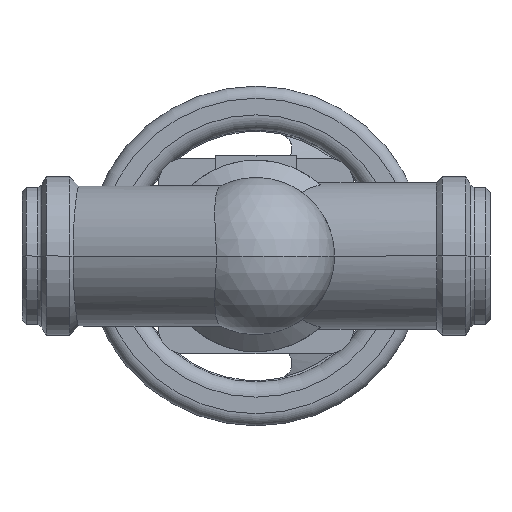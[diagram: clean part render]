
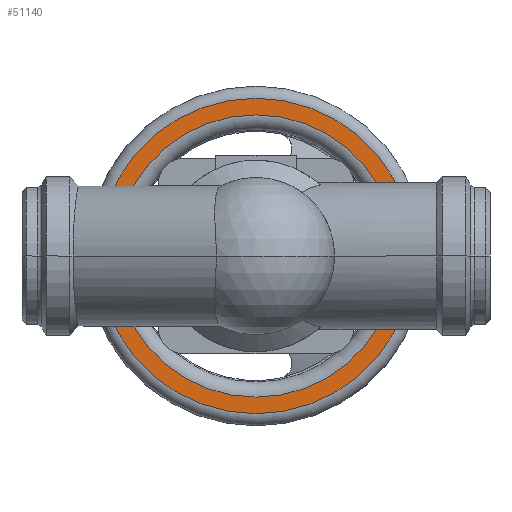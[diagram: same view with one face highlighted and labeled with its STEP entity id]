
A CAD part, front view. The second image highlights one B-rep face of the part: STEP entity #51140.
In plain terms, the highlighted planar face has unit normal (0, -1, 0).
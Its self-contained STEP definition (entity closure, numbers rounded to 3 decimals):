
#50490=CARTESIAN_POINT('',(259.5,328.1,0.));
#50500=VERTEX_POINT('',#50490);
#50530=CARTESIAN_POINT('',(155.,328.1,0.));
#50540=DIRECTION('',(0.,1.,0.));
#50550=DIRECTION('',(-1.,0.,0.));
#50560=AXIS2_PLACEMENT_3D('',#50530,#50540,#50550);
#50570=CIRCLE('',#50560,104.5);
#50580=CARTESIAN_POINT('',(50.5,328.1,0.));
#50590=VERTEX_POINT('',#50580);
#50600=EDGE_CURVE('',#50590,#50500,#50570,.T.);
#50810=CARTESIAN_POINT('',(56.,328.1,0.));
#50820=DIRECTION('',(0.,-1.,0.));
#50830=DIRECTION('',(1.,0.,0.));
#50840=AXIS2_PLACEMENT_3D('',#50810,#50820,#50830);
#50850=PLANE('',#50840);
#50860=CARTESIAN_POINT('',(155.,328.1,-104.5));
#50870=VERTEX_POINT('',#50860);
#50880=EDGE_CURVE('',#50870,#50590,#50570,.T.);
#50890=ORIENTED_EDGE('',*,*,#50880,.F.);
#50900=ORIENTED_EDGE('',*,*,#50600,.F.);
#50910=EDGE_CURVE('',#50500,#50870,#50570,.T.);
#50920=ORIENTED_EDGE('',*,*,#50910,.F.);
#50930=EDGE_LOOP('',(#50920,#50900,#50890));
#50940=FACE_OUTER_BOUND('',#50930,.T.);
#50950=CARTESIAN_POINT('',(155.,328.1,0.));
#50960=DIRECTION('',(0.,1.,0.));
#50970=DIRECTION('',(-1.,0.,0.));
#50980=AXIS2_PLACEMENT_3D('',#50950,#50960,#50970);
#50990=CIRCLE('',#50980,93.5);
#51000=CARTESIAN_POINT('',(248.5,328.1,0.));
#51010=VERTEX_POINT('',#51000);
#51020=CARTESIAN_POINT('',(61.5,328.1,0.));
#51030=VERTEX_POINT('',#51020);
#51040=EDGE_CURVE('',#51010,#51030,#50990,.T.);
#51050=ORIENTED_EDGE('',*,*,#51040,.T.);
#51060=CARTESIAN_POINT('',(155.,328.1,93.5));
#51070=VERTEX_POINT('',#51060);
#51080=EDGE_CURVE('',#51070,#51010,#50990,.T.);
#51090=ORIENTED_EDGE('',*,*,#51080,.T.);
#51100=EDGE_CURVE('',#51030,#51070,#50990,.T.);
#51110=ORIENTED_EDGE('',*,*,#51100,.T.);
#51120=EDGE_LOOP('',(#51110,#51090,#51050));
#51130=FACE_BOUND('',#51120,.T.);
#51140=ADVANCED_FACE('',(#50940,#51130),#50850,.T.);
